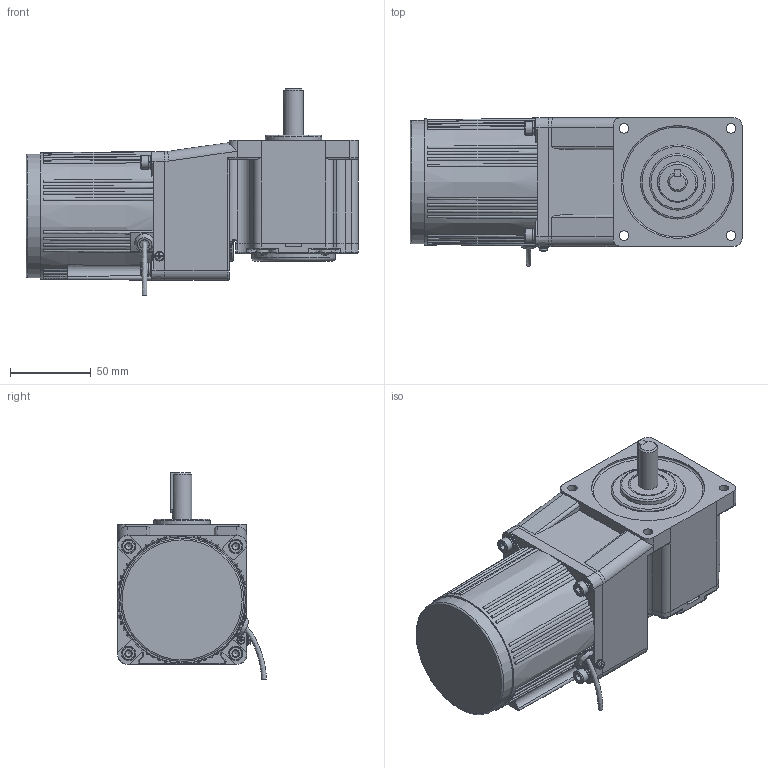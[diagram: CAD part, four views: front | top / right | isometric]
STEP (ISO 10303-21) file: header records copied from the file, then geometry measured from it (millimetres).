
FILE_DESCRIPTION(/* description */ (''),/* implementation_level */ '2;1');
FILE_NAME(/* name */ '80+中实直角-普通-25-40W新版.stp',/* time_stamp */ '2025-03-24T13:57:34+08:00',/* author */ (''),/* organization */ (''),/* preprocessor_version */ 'ST-DEVELOPER v18.102',/* originating_system */ 'SIEMENS PLM Software NX 2027',/* authorisation */ '');
FILE_SCHEMA (('AP203_CONFIGURATION_CONTROLLED_3D_DESIGN_OF_MECHANICAL_PARTS_AND_ASSEMBLIES_MIM_LF { 1 0 10303 403 2 1 2}'));
Length unit declared in the file: millimetre
Products named in the file (1): 4RK25-30CC-4GN25-750K-C·10L_stp_M066312CCEA1lpua
Bounding box: 206 x 92.25 x 128.33 mm (x, y, z)
Volume: 1104417.3 mm3; surface area: 116296.4 mm2
Topology: 16 solids, 16 shells, 870 faces, 2065 edges, 1276 vertices
Faces by surface type: plane 367, cylinder 227, cone 90, torus 88, bspline 86, sphere 12
Full cylindrical faces by diameter (mm): 2.6 x1, 2.7 x1, 3.2 x1, 4.2 x4, 4.4 x1, 4.826 x4, 5 x9, 5.1 x1, 5.3 x4, 6 x10, 8 x4, 8.2 x1, 8.5 x4, 9 x4, 10.5 x1, 12 x1, 19 x1, 25 x1, 26 x1, 35 x1, 46 x1, 52 x1, 56 x1, 67 x1, 70 x1, 75 x1, 76 x1, 76.5 x1, 77.5 x1
Entity records: 31359 total; most frequent: CARTESIAN_POINT 12999, ORIENTED_EDGE 3730, DIRECTION 3462, EDGE_CURVE 1865, AXIS2_PLACEMENT_3D 1412, VERTEX_POINT 1208, EDGE_LOOP 1066, ADVANCED_FACE 868
